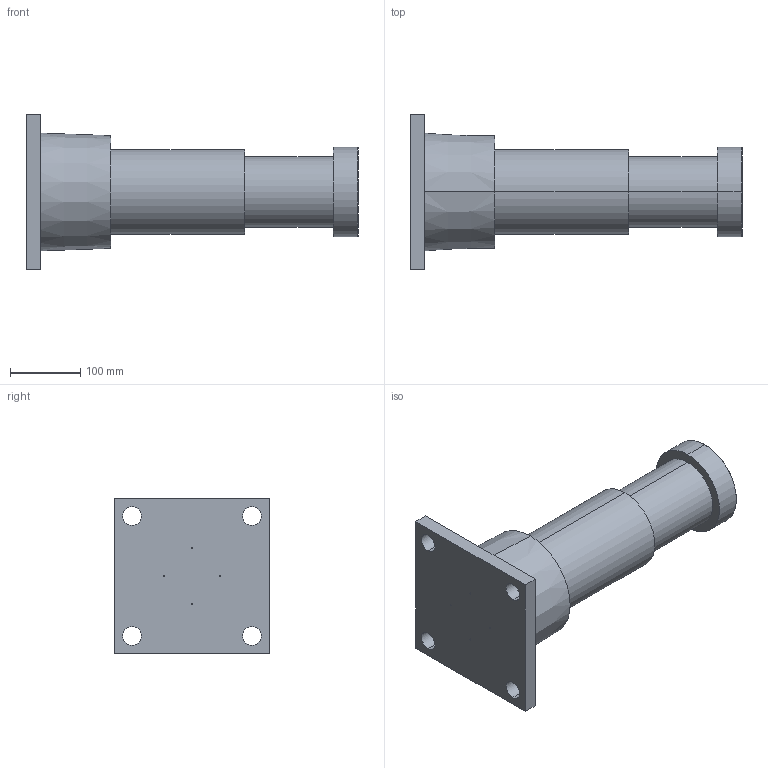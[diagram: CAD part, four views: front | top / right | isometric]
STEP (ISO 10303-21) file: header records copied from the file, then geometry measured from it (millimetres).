
FILE_DESCRIPTION (( 'STEP AP214' ), '1' );
FILE_NAME ('LDH120X100FR.STEP', '2019-01-21T05:00:10', ( 'user' ), ( 'Microsoft' ), 'SwSTEP 2.0', 'SolidWorks 2016', '' );
FILE_SCHEMA (( 'AUTOMOTIVE_DESIGN' ));
Length unit declared in the file: millimetre
Products named in the file (1): LDH120X100FR
Bounding box: 471 x 220 x 220 mm (x, y, z)
Volume: 6604908.4 mm3; surface area: 301319.9 mm2
Topology: 1 solids, 1 shells, 40 faces, 88 edges, 58 vertices
Faces by surface type: cylinder 22, plane 14, cone 4
Entity records: 1176 total; most frequent: DIRECTION 220, CARTESIAN_POINT 187, ORIENTED_EDGE 176, AXIS2_PLACEMENT_3D 91, EDGE_CURVE 88, VERTEX_POINT 58, EDGE_LOOP 56, CIRCLE 50
